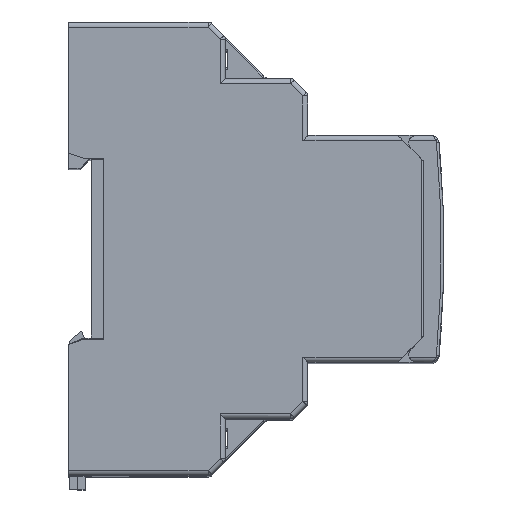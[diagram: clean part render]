
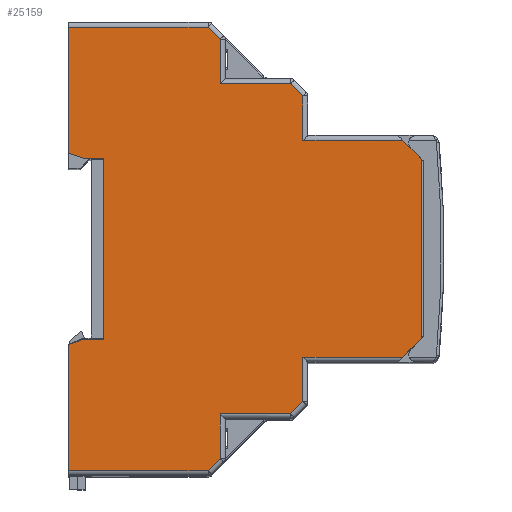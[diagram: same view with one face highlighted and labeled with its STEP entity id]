
A CAD part, top view. The second image highlights one B-rep face of the part: STEP entity #25159.
In plain terms, the highlighted planar face has unit normal (0, 0, 1).
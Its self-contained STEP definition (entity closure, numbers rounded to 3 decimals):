
#663=PLANE($,#26820);
#2838=LINE($,#40078,#5637);
#2860=LINE($,#40125,#5659);
#3040=LINE($,#40867,#5839);
#3041=LINE($,#40869,#5840);
#3042=LINE($,#40871,#5841);
#3043=LINE($,#40873,#5842);
#3044=LINE($,#40875,#5843);
#3045=LINE($,#40877,#5844);
#3046=LINE($,#40879,#5845);
#3047=LINE($,#40881,#5846);
#3048=LINE($,#40883,#5847);
#3049=LINE($,#40885,#5848);
#3050=LINE($,#40887,#5849);
#3051=LINE($,#40889,#5850);
#3052=LINE($,#40891,#5851);
#3053=LINE($,#40893,#5852);
#3054=LINE($,#40894,#5853);
#3055=LINE($,#40896,#5854);
#3056=LINE($,#40898,#5855);
#3057=LINE($,#40900,#5856);
#3058=LINE($,#40902,#5857);
#3059=LINE($,#40904,#5858);
#3060=LINE($,#40906,#5859);
#3061=LINE($,#40907,#5860);
#5637=VECTOR($,#31016,27.686);
#5659=VECTOR($,#31048,27.686);
#5839=VECTOR($,#31514,3.414);
#5840=VECTOR($,#31515,8.836);
#5841=VECTOR($,#31516,13.986);
#5842=VECTOR($,#31517,3.414);
#5843=VECTOR($,#31518,8.836);
#5844=VECTOR($,#31519,19.8);
#5845=VECTOR($,#31520,5.233);
#5846=VECTOR($,#31521,35.6);
#5847=VECTOR($,#31522,5.233);
#5848=VECTOR($,#31523,19.8);
#5849=VECTOR($,#31524,8.836);
#5850=VECTOR($,#31525,3.414);
#5851=VECTOR($,#31526,13.986);
#5852=VECTOR($,#31527,8.836);
#5853=VECTOR($,#31528,3.414);
#5854=VECTOR($,#31529,25.);
#5855=VECTOR($,#31530,3.178);
#5856=VECTOR($,#31531,4.);
#5857=VECTOR($,#31532,35.9);
#5858=VECTOR($,#31533,4.);
#5859=VECTOR($,#31534,3.178);
#5860=VECTOR($,#31535,25.);
#7447=FACE_OUTER_BOUND($,#8853,.T.);
#8853=EDGE_LOOP($,(#19425,#19426,#19427,#19428,#19429,#19430,#19431,#19432,
#19433,#19434,#19435,#19436,#19437,#19438,#19439,#19440,#19441,#19442,#19443,
#19444,#19445,#19446,#19447,#19448));
#11607=VERTEX_POINT($,#40076);
#11608=VERTEX_POINT($,#40077);
#11627=VERTEX_POINT($,#40123);
#11628=VERTEX_POINT($,#40124);
#11903=VERTEX_POINT($,#40866);
#11904=VERTEX_POINT($,#40868);
#11905=VERTEX_POINT($,#40870);
#11906=VERTEX_POINT($,#40872);
#11907=VERTEX_POINT($,#40874);
#11908=VERTEX_POINT($,#40876);
#11909=VERTEX_POINT($,#40878);
#11910=VERTEX_POINT($,#40880);
#11911=VERTEX_POINT($,#40882);
#11912=VERTEX_POINT($,#40884);
#11913=VERTEX_POINT($,#40886);
#11914=VERTEX_POINT($,#40888);
#11915=VERTEX_POINT($,#40890);
#11916=VERTEX_POINT($,#40892);
#11917=VERTEX_POINT($,#40895);
#11918=VERTEX_POINT($,#40897);
#11919=VERTEX_POINT($,#40899);
#11920=VERTEX_POINT($,#40901);
#11921=VERTEX_POINT($,#40903);
#11922=VERTEX_POINT($,#40905);
#14357=EDGE_CURVE($,#11607,#11608,#2838,.T.);
#14381=EDGE_CURVE($,#11627,#11628,#2860,.T.);
#14685=EDGE_CURVE($,#11608,#11903,#3040,.T.);
#14686=EDGE_CURVE($,#11903,#11904,#3041,.T.);
#14687=EDGE_CURVE($,#11904,#11905,#3042,.T.);
#14688=EDGE_CURVE($,#11905,#11906,#3043,.T.);
#14689=EDGE_CURVE($,#11906,#11907,#3044,.T.);
#14690=EDGE_CURVE($,#11907,#11908,#3045,.T.);
#14691=EDGE_CURVE($,#11908,#11909,#3046,.T.);
#14692=EDGE_CURVE($,#11909,#11910,#3047,.T.);
#14693=EDGE_CURVE($,#11911,#11910,#3048,.T.);
#14694=EDGE_CURVE($,#11911,#11912,#3049,.T.);
#14695=EDGE_CURVE($,#11912,#11913,#3050,.T.);
#14696=EDGE_CURVE($,#11913,#11914,#3051,.T.);
#14697=EDGE_CURVE($,#11914,#11915,#3052,.T.);
#14698=EDGE_CURVE($,#11915,#11916,#3053,.T.);
#14699=EDGE_CURVE($,#11916,#11627,#3054,.T.);
#14700=EDGE_CURVE($,#11628,#11917,#3055,.T.);
#14701=EDGE_CURVE($,#11918,#11917,#3056,.T.);
#14702=EDGE_CURVE($,#11919,#11918,#3057,.T.);
#14703=EDGE_CURVE($,#11920,#11919,#3058,.T.);
#14704=EDGE_CURVE($,#11921,#11920,#3059,.T.);
#14705=EDGE_CURVE($,#11922,#11921,#3060,.T.);
#14706=EDGE_CURVE($,#11922,#11607,#3061,.T.);
#19425=ORIENTED_EDGE($,*,*,#14357,.T.);
#19426=ORIENTED_EDGE($,*,*,#14685,.T.);
#19427=ORIENTED_EDGE($,*,*,#14686,.T.);
#19428=ORIENTED_EDGE($,*,*,#14687,.T.);
#19429=ORIENTED_EDGE($,*,*,#14688,.T.);
#19430=ORIENTED_EDGE($,*,*,#14689,.T.);
#19431=ORIENTED_EDGE($,*,*,#14690,.T.);
#19432=ORIENTED_EDGE($,*,*,#14691,.T.);
#19433=ORIENTED_EDGE($,*,*,#14692,.T.);
#19434=ORIENTED_EDGE($,*,*,#14693,.F.);
#19435=ORIENTED_EDGE($,*,*,#14694,.T.);
#19436=ORIENTED_EDGE($,*,*,#14695,.T.);
#19437=ORIENTED_EDGE($,*,*,#14696,.T.);
#19438=ORIENTED_EDGE($,*,*,#14697,.T.);
#19439=ORIENTED_EDGE($,*,*,#14698,.T.);
#19440=ORIENTED_EDGE($,*,*,#14699,.T.);
#19441=ORIENTED_EDGE($,*,*,#14381,.T.);
#19442=ORIENTED_EDGE($,*,*,#14700,.T.);
#19443=ORIENTED_EDGE($,*,*,#14701,.F.);
#19444=ORIENTED_EDGE($,*,*,#14702,.F.);
#19445=ORIENTED_EDGE($,*,*,#14703,.F.);
#19446=ORIENTED_EDGE($,*,*,#14704,.F.);
#19447=ORIENTED_EDGE($,*,*,#14705,.F.);
#19448=ORIENTED_EDGE($,*,*,#14706,.T.);
#25159=ADVANCED_FACE($,(#7447),#663,.F.);
#26820=AXIS2_PLACEMENT_3D($,#40865,#31512,#31513);
#31016=DIRECTION($,(1.,0.,0.));
#31048=DIRECTION($,(-1.,0.,0.));
#31512=DIRECTION('center_axis',(0.,0.,-1.));
#31513=DIRECTION('ref_axis',(-1.,0.,0.));
#31514=DIRECTION($,(0.707,0.707,0.));
#31515=DIRECTION($,(0.,1.,0.));
#31516=DIRECTION($,(1.,0.,0.));
#31517=DIRECTION($,(0.707,0.707,0.));
#31518=DIRECTION($,(0.,1.,0.));
#31519=DIRECTION($,(1.,0.,0.));
#31520=DIRECTION($,(0.707,0.707,0.));
#31521=DIRECTION($,(0.,1.,0.));
#31522=DIRECTION($,(0.707,-0.707,0.));
#31523=DIRECTION($,(-1.,0.,0.));
#31524=DIRECTION($,(0.,1.,0.));
#31525=DIRECTION($,(-0.707,0.707,0.));
#31526=DIRECTION($,(-1.,0.,0.));
#31527=DIRECTION($,(0.,1.,0.));
#31528=DIRECTION($,(-0.707,0.707,0.));
#31529=DIRECTION($,(0.,-1.,0.));
#31530=DIRECTION($,(-0.944,0.33,0.));
#31531=DIRECTION($,(-1.,0.,0.));
#31532=DIRECTION($,(0.,1.,0.));
#31533=DIRECTION($,(1.,0.,0.));
#31534=DIRECTION($,(0.944,0.33,0.));
#31535=DIRECTION($,(0.,-1.,0.));
#40076=CARTESIAN_POINT('',(0.,-44.,80.5));
#40077=CARTESIAN_POINT('',(27.686,-44.,80.5));
#40078=CARTESIAN_POINT($,(31.1,-44.,80.5));
#40123=CARTESIAN_POINT('',(27.686,44.,80.5));
#40124=CARTESIAN_POINT('',(0.,44.,80.5));
#40125=CARTESIAN_POINT($,(31.1,44.,80.5));
#40865=CARTESIAN_POINT('Origin',(31.1,45.,80.5));
#40866=CARTESIAN_POINT('',(30.1,-41.586,80.5));
#40867=CARTESIAN_POINT($,(30.393,-41.293,80.5));
#40868=CARTESIAN_POINT('',(30.1,-32.75,80.5));
#40869=CARTESIAN_POINT($,(30.1,45.,80.5));
#40870=CARTESIAN_POINT('',(44.086,-32.75,80.5));
#40871=CARTESIAN_POINT($,(31.1,-32.75,80.5));
#40872=CARTESIAN_POINT('',(46.5,-30.336,80.5));
#40873=CARTESIAN_POINT($,(46.793,-30.043,80.5));
#40874=CARTESIAN_POINT('',(46.5,-21.5,80.5));
#40875=CARTESIAN_POINT($,(46.5,45.,80.5));
#40876=CARTESIAN_POINT('',(66.3,-21.5,80.5));
#40877=CARTESIAN_POINT($,(31.1,-21.5,80.5));
#40878=CARTESIAN_POINT('',(70.,-17.8,80.5));
#40879=CARTESIAN_POINT($,(65.3,-22.5,80.5));
#40880=CARTESIAN_POINT('',(70.,17.8,80.5));
#40881=CARTESIAN_POINT($,(70.,45.,80.5));
#40882=CARTESIAN_POINT('',(66.3,21.5,80.5));
#40883=CARTESIAN_POINT($,(65.3,22.5,80.5));
#40884=CARTESIAN_POINT('',(46.5,21.5,80.5));
#40885=CARTESIAN_POINT($,(31.1,21.5,80.5));
#40886=CARTESIAN_POINT('',(46.5,30.336,80.5));
#40887=CARTESIAN_POINT($,(46.5,45.,80.5));
#40888=CARTESIAN_POINT('',(44.086,32.75,80.5));
#40889=CARTESIAN_POINT($,(43.793,33.043,80.5));
#40890=CARTESIAN_POINT('',(30.1,32.75,80.5));
#40891=CARTESIAN_POINT($,(31.1,32.75,80.5));
#40892=CARTESIAN_POINT('',(30.1,41.586,80.5));
#40893=CARTESIAN_POINT($,(30.1,45.,80.5));
#40894=CARTESIAN_POINT($,(27.393,44.293,80.5));
#40895=CARTESIAN_POINT('',(0.,19.,80.5));
#40896=CARTESIAN_POINT($,(0.,-45.,80.5));
#40897=CARTESIAN_POINT('',(3.,17.95,80.5));
#40898=CARTESIAN_POINT($,(0.,19.,80.5));
#40899=CARTESIAN_POINT('',(7.,17.95,80.5));
#40900=CARTESIAN_POINT($,(3.,17.95,80.5));
#40901=CARTESIAN_POINT('',(7.,-17.95,80.5));
#40902=CARTESIAN_POINT($,(7.,-19.231,80.5));
#40903=CARTESIAN_POINT('',(3.,-17.95,80.5));
#40904=CARTESIAN_POINT($,(3.,-17.95,80.5));
#40905=CARTESIAN_POINT('',(0.,-19.,80.5));
#40906=CARTESIAN_POINT($,(0.,-19.,80.5));
#40907=CARTESIAN_POINT($,(0.,-45.,80.5));
